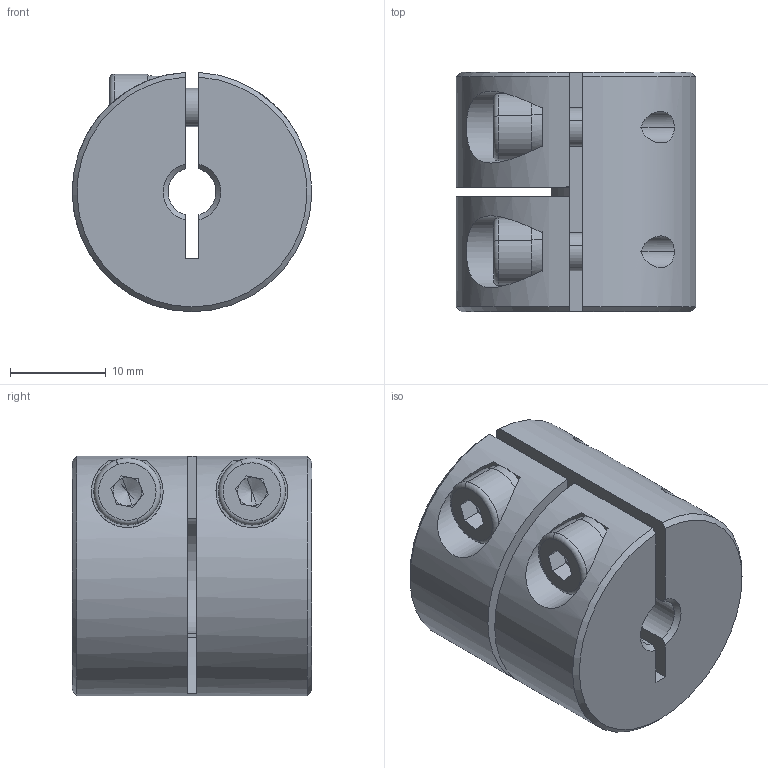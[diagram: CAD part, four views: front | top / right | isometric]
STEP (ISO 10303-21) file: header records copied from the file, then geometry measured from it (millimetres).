
FILE_DESCRIPTION (( 'STEP AP203' ), '1' );
FILE_NAME ('LL-B-D25L25-5-12.STEP', '2021-11-05T06:28:44', ( '' ), ( '' ), 'SwSTEP 2.0', 'SolidWorks 2018', '' );
FILE_SCHEMA (( 'CONFIG_CONTROL_DESIGN' ));
Length unit declared in the file: millimetre
Products named in the file (1): LL-B-D25L25-5-12
Bounding box: 24.99 x 25 x 24.98 mm (x, y, z)
Volume: 9801.4 mm3; surface area: 4958.2 mm2
Topology: 1 solids, 1 shells, 104 faces, 270 edges, 170 vertices
Faces by surface type: plane 52, cylinder 37, cone 11, torus 4
Entity records: 3471 total; most frequent: CARTESIAN_POINT 815, DIRECTION 560, ORIENTED_EDGE 532, EDGE_CURVE 266, AXIS2_PLACEMENT_3D 215, VERTEX_POINT 170, LINE 130, VECTOR 130
